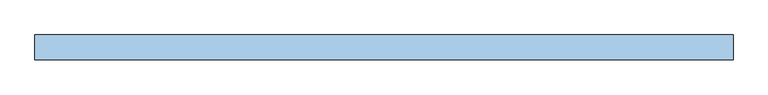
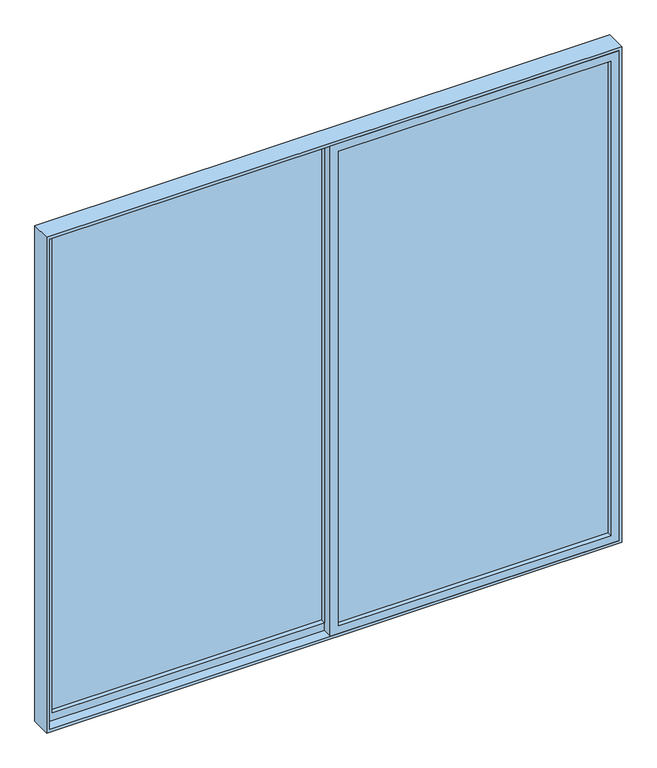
"""IFC4 building model written with IfcOpenShell, lengths in millimetres: window geometry, VENT_ALUM_CORR_2HOJAS_CORRE 1 : VD-8 / CORRE RECAM 2.8 X 2.55."""

from ifc_helpers import new_model, si_unit, frame, origin, place, context, project, spatial, polyline, outline, extrude, source, transform, mapped, element, save


def window_29ca6181(model_context):
    return source(origin(), model_context, "Body", "SweptSolid", [
        extrude(outline(polyline([(-20.0, 28.0), (-20.0, 22.0), (-1345.0, 22.0), (-1345.0, 28.0), (-20.0, 28.0)])), frame((0.0, 0.0, 855.0), z_axis=(0.0, 0.0, 1.0), x_axis=(1.0, 0.0, 0.0)), (0.0, 0.0, 1.0), 2440.0),
        extrude(outline(polyline([(3335.0, -1385.0), (815.0, -1385.0), (815.0, 20.0), (3335.0, 20.0), (3335.0, -1385.0)]), holes=[polyline([(855.0, -1345.0), (3295.0, -1345.0), (3295.0, -20.0), (855.0, -20.0), (855.0, -1345.0)])]), frame((0.0, 0.0, 0.0), z_axis=(0.0, 1.0, 0.0), x_axis=(0.0, 0.0, 1.0)), (0.0, 0.0, 1.0), 50.0),
        extrude(outline(polyline([(20.0, -28.0), (20.0, -22.0), (1345.0, -22.0), (1345.0, -28.0), (20.0, -28.0)])), frame((0.0, 0.0, 855.0), z_axis=(0.0, 0.0, 1.0), x_axis=(1.0, 0.0, 0.0)), (0.0, 0.0, 1.0), 2440.0),
        extrude(outline(polyline([(3335.0, -20.0), (815.0, -20.0), (815.0, 1385.0), (3335.0, 1385.0), (3335.0, -20.0)]), holes=[polyline([(855.0, 20.0), (3295.0, 20.0), (3295.0, 1345.0), (855.0, 1345.0), (855.0, 20.0)])]), frame((0.0, -50.0, 0.0), z_axis=(0.0, 1.0, 0.0), x_axis=(0.0, 0.0, 1.0)), (0.0, 0.0, 1.0), 50.0),
        extrude(outline(polyline([(3350.0, -1400.0), (800.0, -1400.0), (800.0, 1400.0), (3350.0, 1400.0), (3350.0, -1400.0)]), holes=[polyline([(815.0, -1385.0), (3335.0, -1385.0), (3335.0, 1385.0), (815.0, 1385.0), (815.0, -1385.0)])]), frame((0.0, -50.0, 0.0), z_axis=(0.0, 1.0, 0.0), x_axis=(0.0, 0.0, 1.0)), (0.0, 0.0, 1.0), 100.0),
    ])


if __name__ == "__main__":
    model = new_model("IFC4")
    model_context = context("Model", 3, world=origin())
    ifc_project = project(units=[si_unit("LENGTHUNIT", "METRE", prefix="MILLI")], contexts=[model_context])
    site = spatial("IfcSite", under=ifc_project)
    building = spatial("IfcBuilding", under=site)
    placement = place(None, origin())
    window_shape = window_29ca6181(model_context)
    element("IfcWindow", 1, ObjectType="VENT_ALUM_CORR_2HOJAS_CORRE 1 : VD-8 / CORRE RECAM 2.8 X 2.55", at=placement, inside=building, context=model_context, shape_type="MappedRepresentation", body=[
        mapped(window_shape, transform((0.0, 0.0, 0.0), x_axis=(1.0, 0.0, 0.0), y_axis=(0.0, 1.0, 0.0), z_axis=(0.0, 0.0, 1.0))),
    ])
    save(model, "model.ifc")
